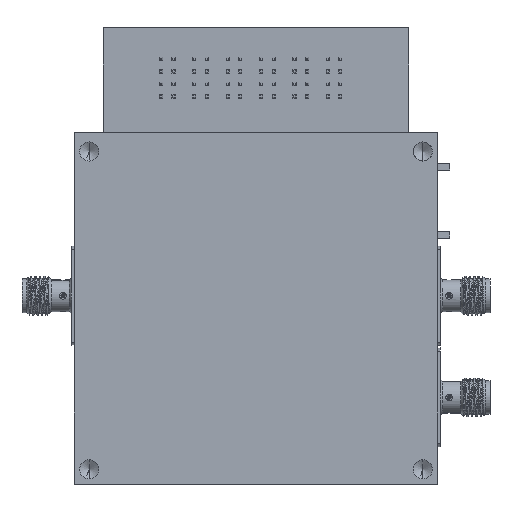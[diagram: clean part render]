
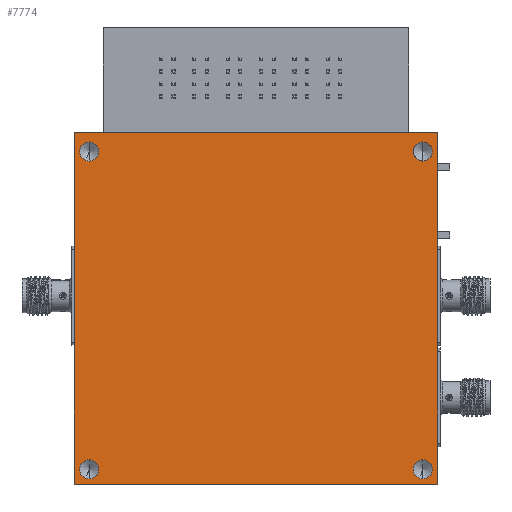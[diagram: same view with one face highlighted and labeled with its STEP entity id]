
A CAD part, front view. The second image highlights one B-rep face of the part: STEP entity #7774.
In plain terms, the highlighted planar face has unit normal (0, -1, 0).
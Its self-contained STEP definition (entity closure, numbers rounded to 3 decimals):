
#3601 = EDGE_LOOP ( 'NONE', ( #10574, #10575 ) ) ;
#3618 = EDGE_LOOP ( 'NONE', ( #10576, #10577 ) ) ;
#3627 = EDGE_LOOP ( 'NONE', ( #10578, #10579 ) ) ;
#3988 = EDGE_LOOP ( 'NONE', ( #10572, #10573 ) ) ;
#3989 = EDGE_LOOP ( 'NONE', ( #10580, #10581, #10582, #10583 ) ) ;
#4289 = VERTEX_POINT ( 'NONE', #18310 ) ;
#4302 = VERTEX_POINT ( 'NONE', #18323 ) ;
#4545 = VERTEX_POINT ( 'NONE', #18445 ) ;
#4603 = VERTEX_POINT ( 'NONE', #18503 ) ;
#4634 = VERTEX_POINT ( 'NONE', #18534 ) ;
#4667 = VERTEX_POINT ( 'NONE', #18567 ) ;
#4700 = VERTEX_POINT ( 'NONE', #18600 ) ;
#4808 = VERTEX_POINT ( 'NONE', #18708 ) ;
#4862 = VERTEX_POINT ( 'NONE', #18762 ) ;
#4932 = VERTEX_POINT ( 'NONE', #18832 ) ;
#5006 = VERTEX_POINT ( 'NONE', #18906 ) ;
#5014 = VERTEX_POINT ( 'NONE', #18914 ) ;
#7774 = ADVANCED_FACE ( 'NONE', ( #22698, #22706, #22702, #22700, #22704 ), #25294, .T. ) ;
#9485 = EDGE_CURVE ( 'NONE', #4289, #4667, #29596, .T. ) ;
#9491 = EDGE_CURVE ( 'NONE', #5006, #5014, #29606, .T. ) ;
#9500 = EDGE_CURVE ( 'NONE', #4700, #4603, #29617, .T. ) ;
#9506 = EDGE_CURVE ( 'NONE', #4808, #4862, #29629, .T. ) ;
#9627 = EDGE_CURVE ( 'NONE', #4545, #4932, #29821, .T. ) ;
#9704 = EDGE_CURVE ( 'NONE', #4302, #4634, #29943, .T. ) ;
#9707 = EDGE_CURVE ( 'NONE', #4634, #4545, #29949, .T. ) ;
#9790 = EDGE_CURVE ( 'NONE', #4932, #4302, #30082, .T. ) ;
#9823 = EDGE_CURVE ( 'NONE', #4667, #4289, #32018, .T. ) ;
#9824 = EDGE_CURVE ( 'NONE', #5014, #5006, #32020, .T. ) ;
#9825 = EDGE_CURVE ( 'NONE', #4603, #4700, #32021, .T. ) ;
#9826 = EDGE_CURVE ( 'NONE', #4862, #4808, #32022, .T. ) ;
#10572 = ORIENTED_EDGE ( 'NONE', *, *, #9823, .F. ) ;
#10573 = ORIENTED_EDGE ( 'NONE', *, *, #9485, .F. ) ;
#10574 = ORIENTED_EDGE ( 'NONE', *, *, #9824, .F. ) ;
#10575 = ORIENTED_EDGE ( 'NONE', *, *, #9491, .F. ) ;
#10576 = ORIENTED_EDGE ( 'NONE', *, *, #9825, .F. ) ;
#10577 = ORIENTED_EDGE ( 'NONE', *, *, #9500, .F. ) ;
#10578 = ORIENTED_EDGE ( 'NONE', *, *, #9826, .F. ) ;
#10579 = ORIENTED_EDGE ( 'NONE', *, *, #9506, .F. ) ;
#10580 = ORIENTED_EDGE ( 'NONE', *, *, #9790, .T. ) ;
#10581 = ORIENTED_EDGE ( 'NONE', *, *, #9704, .T. ) ;
#10582 = ORIENTED_EDGE ( 'NONE', *, *, #9707, .T. ) ;
#10583 = ORIENTED_EDGE ( 'NONE', *, *, #9627, .T. ) ;
#18310 = CARTESIAN_POINT ( 'NONE',  ( 2.35, -0.762, -0.826 ) ) ;
#18323 = CARTESIAN_POINT ( 'NONE',  ( 0., -0.762, 0.635 ) ) ;
#18445 = CARTESIAN_POINT ( 'NONE',  ( 58.039, -0.762, -55.499 ) ) ;
#18503 = CARTESIAN_POINT ( 'NONE',  ( 55.689, -0.762, -54.673 ) ) ;
#18534 = CARTESIAN_POINT ( 'NONE',  ( 0., -0.762, -55.499 ) ) ;
#18567 = CARTESIAN_POINT ( 'NONE',  ( 2.35, -0.762, -3.873 ) ) ;
#18600 = CARTESIAN_POINT ( 'NONE',  ( 55.689, -0.762, -51.625 ) ) ;
#18708 = CARTESIAN_POINT ( 'NONE',  ( 2.35, -0.762, -51.625 ) ) ;
#18762 = CARTESIAN_POINT ( 'NONE',  ( 2.35, -0.762, -54.673 ) ) ;
#18832 = CARTESIAN_POINT ( 'NONE',  ( 58.039, -0.762, 0.635 ) ) ;
#18906 = CARTESIAN_POINT ( 'NONE',  ( 55.689, -0.762, -0.826 ) ) ;
#18914 = CARTESIAN_POINT ( 'NONE',  ( 55.689, -0.762, -3.873 ) ) ;
#22698 = FACE_BOUND ( 'NONE', #3988, .T. ) ;
#22700 = FACE_BOUND ( 'NONE', #3627, .T. ) ;
#22702 = FACE_BOUND ( 'NONE', #3618, .T. ) ;
#22704 = FACE_OUTER_BOUND ( 'NONE', #3989, .T. ) ;
#22706 = FACE_BOUND ( 'NONE', #3601, .T. ) ;
#24464 = AXIS2_PLACEMENT_3D ( 'NONE', #25296, #25292, #25298 ) ;
#24592 = AXIS2_PLACEMENT_3D ( 'NONE', #30543, #30544, #30545 ) ;
#24594 = AXIS2_PLACEMENT_3D ( 'NONE', #30555, #30556, #30557 ) ;
#24597 = AXIS2_PLACEMENT_3D ( 'NONE', #30580, #30581, #30582 ) ;
#24599 = AXIS2_PLACEMENT_3D ( 'NONE', #30594, #30595, #30596 ) ;
#24721 = AXIS2_PLACEMENT_3D ( 'NONE', #31349, #31350, #31351 ) ;
#24722 = AXIS2_PLACEMENT_3D ( 'NONE', #31352, #31353, #31354 ) ;
#24723 = AXIS2_PLACEMENT_3D ( 'NONE', #31355, #31356, #31357 ) ;
#24724 = AXIS2_PLACEMENT_3D ( 'NONE', #31358, #31359, #31360 ) ;
#25292 = DIRECTION ( 'NONE',  ( 0., -1., 0. ) ) ;
#25294 = PLANE ( 'NONE',  #24464 ) ;
#25296 = CARTESIAN_POINT ( 'NONE',  ( 0., -0.762, 0. ) ) ;
#25298 = DIRECTION ( 'NONE',  ( 0., 0., -1. ) ) ;
#29596 = CIRCLE ( 'NONE', #24592, 1.524 ) ;
#29606 = CIRCLE ( 'NONE', #24594, 1.524 ) ;
#29617 = CIRCLE ( 'NONE', #24597, 1.524 ) ;
#29629 = CIRCLE ( 'NONE', #24599, 1.524 ) ;
#29821 = LINE ( 'NONE', #30879, #29826 ) ;
#29826 = VECTOR ( 'NONE', #30884, 1000. ) ;
#29943 = LINE ( 'NONE', #31072, #29946 ) ;
#29946 = VECTOR ( 'NONE', #31073, 1000. ) ;
#29949 = LINE ( 'NONE', #31078, #29952 ) ;
#29952 = VECTOR ( 'NONE', #31079, 1000. ) ;
#30082 = LINE ( 'NONE', #31269, #30084 ) ;
#30084 = VECTOR ( 'NONE', #31270, 1000. ) ;
#30543 = CARTESIAN_POINT ( 'NONE',  ( 2.35, -0.762, -2.349 ) ) ;
#30544 = DIRECTION ( 'NONE',  ( 0., -1., 0. ) ) ;
#30545 = DIRECTION ( 'NONE',  ( 0., 0., -1. ) ) ;
#30555 = CARTESIAN_POINT ( 'NONE',  ( 55.689, -0.762, -2.349 ) ) ;
#30556 = DIRECTION ( 'NONE',  ( 0., -1., 0. ) ) ;
#30557 = DIRECTION ( 'NONE',  ( 0., 0., -1. ) ) ;
#30580 = CARTESIAN_POINT ( 'NONE',  ( 55.689, -0.762, -53.149 ) ) ;
#30581 = DIRECTION ( 'NONE',  ( 0., -1., 0. ) ) ;
#30582 = DIRECTION ( 'NONE',  ( 0., 0., -1. ) ) ;
#30594 = CARTESIAN_POINT ( 'NONE',  ( 2.35, -0.762, -53.149 ) ) ;
#30595 = DIRECTION ( 'NONE',  ( 0., -1., 0. ) ) ;
#30596 = DIRECTION ( 'NONE',  ( 0., 0., -1. ) ) ;
#30879 = CARTESIAN_POINT ( 'NONE',  ( 58.039, -0.762, -55.499 ) ) ;
#30884 = DIRECTION ( 'NONE',  ( 0., 0., 1. ) ) ;
#31072 = CARTESIAN_POINT ( 'NONE',  ( 0., -0.762, 0.635 ) ) ;
#31073 = DIRECTION ( 'NONE',  ( 0., 0., -1. ) ) ;
#31078 = CARTESIAN_POINT ( 'NONE',  ( 0., -0.762, -55.499 ) ) ;
#31079 = DIRECTION ( 'NONE',  ( 1., 0., 0. ) ) ;
#31269 = CARTESIAN_POINT ( 'NONE',  ( 58.039, -0.762, 0.635 ) ) ;
#31270 = DIRECTION ( 'NONE',  ( -1., 0., 0. ) ) ;
#31349 = CARTESIAN_POINT ( 'NONE',  ( 2.35, -0.762, -2.349 ) ) ;
#31350 = DIRECTION ( 'NONE',  ( 0., -1., 0. ) ) ;
#31351 = DIRECTION ( 'NONE',  ( 0., 0., -1. ) ) ;
#31352 = CARTESIAN_POINT ( 'NONE',  ( 55.689, -0.762, -2.349 ) ) ;
#31353 = DIRECTION ( 'NONE',  ( 0., -1., 0. ) ) ;
#31354 = DIRECTION ( 'NONE',  ( 0., 0., -1. ) ) ;
#31355 = CARTESIAN_POINT ( 'NONE',  ( 55.689, -0.762, -53.149 ) ) ;
#31356 = DIRECTION ( 'NONE',  ( 0., -1., 0. ) ) ;
#31357 = DIRECTION ( 'NONE',  ( 0., 0., -1. ) ) ;
#31358 = CARTESIAN_POINT ( 'NONE',  ( 2.35, -0.762, -53.149 ) ) ;
#31359 = DIRECTION ( 'NONE',  ( 0., -1., 0. ) ) ;
#31360 = DIRECTION ( 'NONE',  ( 0., 0., -1. ) ) ;
#32018 = CIRCLE ( 'NONE', #24721, 1.524 ) ;
#32020 = CIRCLE ( 'NONE', #24722, 1.524 ) ;
#32021 = CIRCLE ( 'NONE', #24723, 1.524 ) ;
#32022 = CIRCLE ( 'NONE', #24724, 1.524 ) ;
